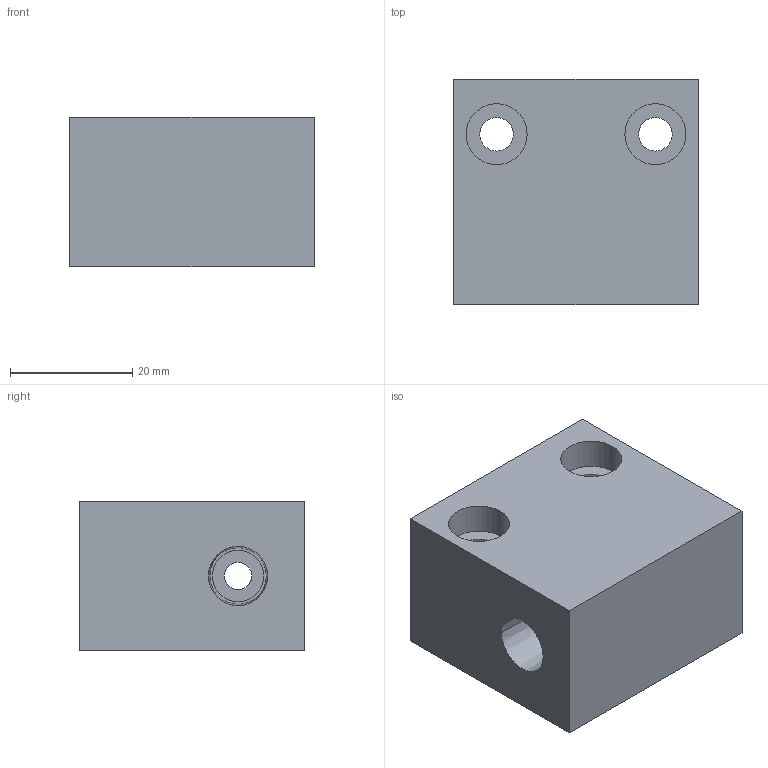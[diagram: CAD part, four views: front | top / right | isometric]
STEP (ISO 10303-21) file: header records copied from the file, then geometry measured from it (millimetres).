
FILE_DESCRIPTION( ( '' ), '1' );
FILE_NAME( '//expscmdclustefs.cadenas.external/client_exchange/iodir/jobs/output/wkb43201384_no0/STEP/U40046_2_03.stp', '2012-03-21T11:12:33', ( '' ), ( '' ), ' ', ' ', ' ' );
FILE_SCHEMA( ( 'CONFIG_CONTROL_DESIGN' ) );
Length unit declared in the file: millimetre
Products named in the file (1): 1
Bounding box: 40 x 36.9 x 24.5 mm (x, y, z)
Volume: 29254.6 mm3; surface area: 9453.3 mm2
Topology: 1 solids, 1 shells, 44 faces, 100 edges, 66 vertices
Faces by surface type: cylinder 24, plane 16, cone 4
Entity records: 1442 total; most frequent: CARTESIAN_POINT 345, DIRECTION 236, ORIENTED_EDGE 200, EDGE_CURVE 100, AXIS2_PLACEMENT_3D 97, VERTEX_POINT 66, EDGE_LOOP 60, CIRCLE 52
